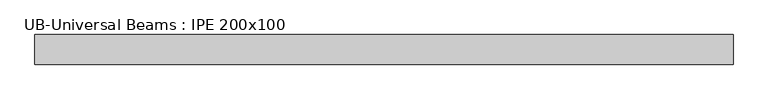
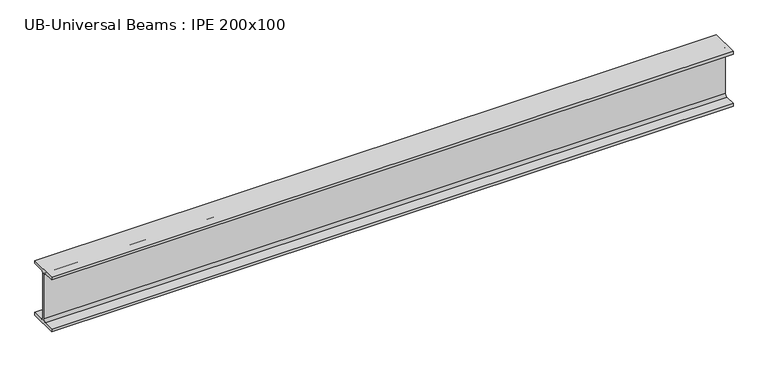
"""IFC4 building model written with IfcOpenShell, lengths in millimetres: beam geometry, UB-Universal Beams : IPE 200x100."""

from ifc_helpers import new_model, si_unit, point, frame, frame_2d, origin, place, context, project, spatial, polyline, circle_curve, trimmed, segment, composite_curve, outline, extrude, source, transform, mapped, element, save


def ub_universal_beams_ipe_200x100_cbb9be62(model_context):
    return source(origin(), model_context, "Body", "SweptSolid", [
        extrude(outline(composite_curve([segment(polyline([(50.0, -89.8), (50.0, -100.0), (-50.0, -100.0), (-50.0, -89.8), (-11.9, -89.8)]), True, "CONTINUOUS"), segment(trimmed(circle_curve(frame_2d((-11.9, -80.9)), 8.9), [point((-11.9, -89.8))], [point((-3.0, -80.9))], True, "CARTESIAN"), True, "CONTINUOUS"), segment(polyline([(-3.0, -80.9), (-3.0, 80.9)]), True, "CONTINUOUS"), segment(trimmed(circle_curve(frame_2d((-11.9, 80.9)), 8.9), [point((-3.0, 80.9))], [point((-11.9, 89.8))], True, "CARTESIAN"), True, "CONTINUOUS"), segment(polyline([(-11.9, 89.8), (-50.0, 89.8), (-50.0, 100.0), (50.0, 100.0), (50.0, 89.8), (11.9, 89.8)]), True, "CONTINUOUS"), segment(trimmed(circle_curve(frame_2d((11.9, 80.9)), 8.9), [point((11.9, 89.8))], [point((3.0, 80.9))], True, "CARTESIAN"), True, "CONTINUOUS"), segment(polyline([(3.0, 80.9), (3.0, -80.9)]), True, "CONTINUOUS"), segment(trimmed(circle_curve(frame_2d((11.9, -80.9)), 8.9), [point((3.0, -80.9))], [point((11.9, -89.8))], True, "CARTESIAN"), True, "CONTINUOUS"), segment(polyline([(11.9, -89.8), (50.0, -89.8)]), True, "CONTINUOUS")], self_intersect=False)), frame((-1154.65, 0.0, 0.0), z_axis=(1.0, 0.0, 0.0), x_axis=(0.0, 1.0, 0.0)), (0.0, 0.0, 1.0), 2359.3),
    ])


if __name__ == "__main__":
    model = new_model("IFC4")
    model_context = context("Model", 3, world=origin())
    ifc_project = project(units=[si_unit("LENGTHUNIT", "METRE", prefix="MILLI")], contexts=[model_context])
    site = spatial("IfcSite", under=ifc_project)
    building = spatial("IfcBuilding", under=site)
    placement = place(None, origin())
    ub_universal_beams_ipe_200x100_shape = ub_universal_beams_ipe_200x100_cbb9be62(model_context)
    element("IfcBeam", 1, ObjectType="UB-Universal Beams : IPE 200x100", at=placement, inside=building, context=model_context, shape_type="MappedRepresentation", body=[
        mapped(ub_universal_beams_ipe_200x100_shape, transform((0.0, 0.0, 0.0), x_axis=(1.0, 0.0, 0.0), y_axis=(0.0, 1.0, 0.0), z_axis=(0.0, 0.0, 1.0))),
    ])
    save(model, "model.ifc")
